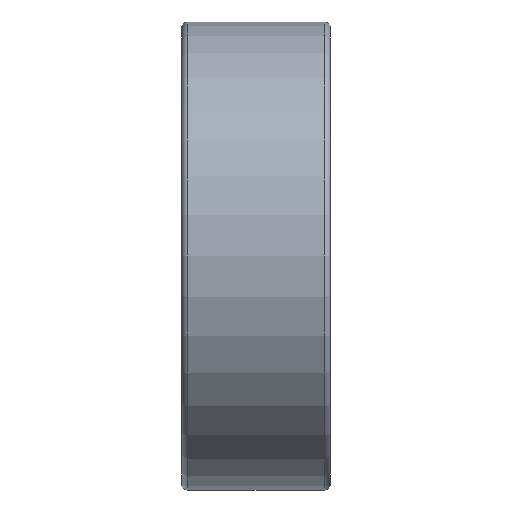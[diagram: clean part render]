
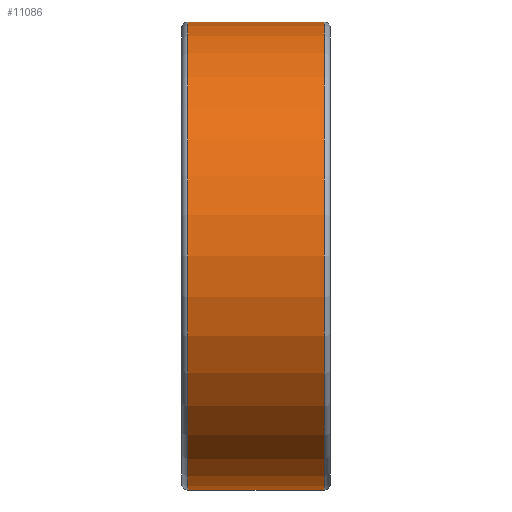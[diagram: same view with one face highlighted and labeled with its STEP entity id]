
A CAD part, front view. The second image highlights one B-rep face of the part: STEP entity #11086.
In plain terms, the highlighted cylindrical face has radius 11 mm (diameter 22 mm), a full revolution.
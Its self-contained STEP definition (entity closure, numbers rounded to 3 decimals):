
#828=LINE('',#16040,#1538);
#1538=VECTOR('',#12979,11.);
#2248=CYLINDRICAL_SURFACE('',#11761,11.);
#2339=FACE_OUTER_BOUND('',#2977,.T.);
#2977=EDGE_LOOP('',(#7381,#7382,#7383,#7384,#7385,#7386));
#3665=CIRCLE('',#11759,11.);
#3666=CIRCLE('',#11760,11.);
#3667=CIRCLE('',#11762,11.);
#3668=CIRCLE('',#11763,11.);
#4370=VERTEX_POINT('',#16033);
#4371=VERTEX_POINT('',#16035);
#4372=VERTEX_POINT('',#16039);
#4373=VERTEX_POINT('',#16041);
#5573=EDGE_CURVE('',#4370,#4371,#3665,.T.);
#5574=EDGE_CURVE('',#4371,#4370,#3666,.T.);
#5575=EDGE_CURVE('',#4371,#4372,#828,.T.);
#5576=EDGE_CURVE('',#4373,#4372,#3667,.T.);
#5577=EDGE_CURVE('',#4372,#4373,#3668,.T.);
#7381=ORIENTED_EDGE('',*,*,#5574,.F.);
#7382=ORIENTED_EDGE('',*,*,#5575,.T.);
#7383=ORIENTED_EDGE('',*,*,#5576,.F.);
#7384=ORIENTED_EDGE('',*,*,#5577,.F.);
#7385=ORIENTED_EDGE('',*,*,#5575,.F.);
#7386=ORIENTED_EDGE('',*,*,#5573,.F.);
#11086=ADVANCED_FACE('',(#2339),#2248,.T.);
#11759=AXIS2_PLACEMENT_3D('',#16036,#12973,#12974);
#11760=AXIS2_PLACEMENT_3D('',#16037,#12975,#12976);
#11761=AXIS2_PLACEMENT_3D('',#16038,#12977,#12978);
#11762=AXIS2_PLACEMENT_3D('',#16042,#12980,#12981);
#11763=AXIS2_PLACEMENT_3D('',#16043,#12982,#12983);
#12973=DIRECTION('center_axis',(1.,0.,0.));
#12974=DIRECTION('ref_axis',(0.,-1.,0.));
#12975=DIRECTION('center_axis',(1.,0.,0.));
#12976=DIRECTION('ref_axis',(0.,-1.,0.));
#12977=DIRECTION('center_axis',(1.,0.,0.));
#12978=DIRECTION('ref_axis',(0.,1.,0.));
#12979=DIRECTION('',(-1.,0.,0.));
#12980=DIRECTION('center_axis',(-1.,0.,0.));
#12981=DIRECTION('ref_axis',(0.,-1.,0.));
#12982=DIRECTION('center_axis',(-1.,0.,0.));
#12983=DIRECTION('ref_axis',(0.,-1.,0.));
#16033=CARTESIAN_POINT('',(3.2,0.,11.));
#16035=CARTESIAN_POINT('',(3.2,-11.,0.));
#16036=CARTESIAN_POINT('Origin',(3.2,0.,0.));
#16037=CARTESIAN_POINT('Origin',(3.2,0.,0.));
#16038=CARTESIAN_POINT('Origin',(0.,0.,0.));
#16039=CARTESIAN_POINT('',(-3.2,-11.,0.));
#16040=CARTESIAN_POINT('',(0.,-11.,0.));
#16041=CARTESIAN_POINT('',(-3.2,0.,11.));
#16042=CARTESIAN_POINT('Origin',(-3.2,0.,0.));
#16043=CARTESIAN_POINT('Origin',(-3.2,0.,0.));
